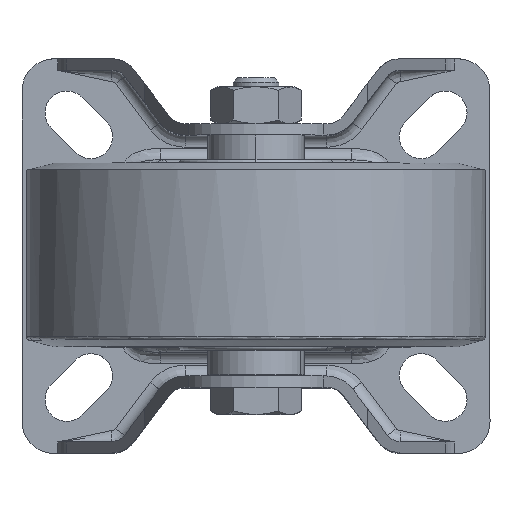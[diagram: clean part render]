
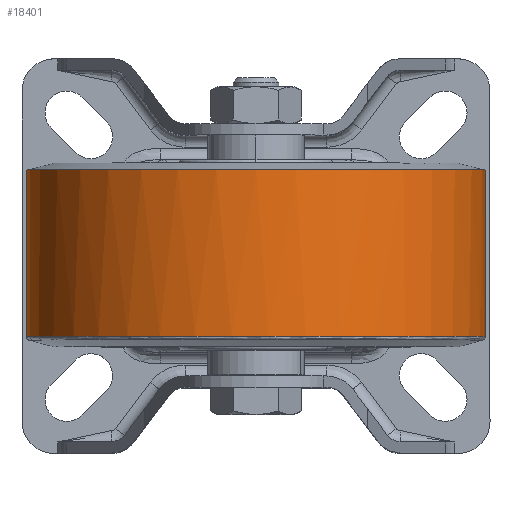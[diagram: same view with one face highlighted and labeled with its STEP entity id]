
A CAD part, top view. The second image highlights one B-rep face of the part: STEP entity #18401.
In plain terms, the highlighted cylindrical face has radius 50 mm (diameter 100 mm), a partial arc.
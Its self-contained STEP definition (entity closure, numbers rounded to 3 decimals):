
#374 = CARTESIAN_POINT ( 'NONE',  ( -116.752, 9.918, 84.156 ) ) ;
#474 = CARTESIAN_POINT ( 'NONE',  ( -60.396, 9.918, 107.499 ) ) ;
#579 = CARTESIAN_POINT ( 'NONE',  ( -23.36, 9.918, 62.371 ) ) ;
#864 = VERTEX_POINT ( 'NONE', #8011 ) ;
#1130 = CARTESIAN_POINT ( 'NONE',  ( -73.36, 9.918, 59.098 ) ) ;
#2324 = EDGE_CURVE ( 'NONE', #11503, #864, #7804, .T. ) ;
#2419 = LINE ( 'NONE', #21372, #14358 ) ;
#2521 = EDGE_LOOP ( 'NONE', ( #30400, #28968, #5416, #23840 ) ) ;
#2778 = CARTESIAN_POINT ( 'NONE',  ( -111.03, 9.918, 92.139 ) ) ;
#2880 = CARTESIAN_POINT ( 'NONE',  ( -51.203, 9.918, 104.04 ) ) ;
#4739 = CIRCLE ( 'NONE', #17455, 50. ) ;
#4938 = VERTEX_POINT ( 'NONE', #17892 ) ;
#5169 = CARTESIAN_POINT ( 'NONE',  ( -103.86, 9.918, 98.853 ) ) ;
#5264 = CARTESIAN_POINT ( 'NONE',  ( -42.861, 9.918, 98.853 ) ) ;
#5416 = ORIENTED_EDGE ( 'NONE', *, *, #22107, .T. ) ;
#6010 = CARTESIAN_POINT ( 'NONE',  ( -73.36, 46.222, 59.098 ) ) ;
#6728 = CARTESIAN_POINT ( 'NONE',  ( -123.36, 9.918, 59.098 ) ) ;
#7370 = CARTESIAN_POINT ( 'NONE',  ( -123.36, 9.918, 62.371 ) ) ;
#7580 = CARTESIAN_POINT ( 'NONE',  ( -95.518, 9.918, 104.04 ) ) ;
#7682 = CARTESIAN_POINT ( 'NONE',  ( -35.691, 9.918, 92.139 ) ) ;
#7804 = B_SPLINE_CURVE_WITH_KNOTS ( 'NONE', 3,
 ( #14562, #7370, #26505, #12277, #28902, #14663, #374, #17051, #2778, #19464, #5169, #21859, #7580, #24238, #9981, #26608, #12375, #29008, #14767, #474, #17158, #2880, #19570, #5264, #21966, #7682, #24333, #10080, #26711, #12477, #29105, #14867, #579, #17250 ),
 .UNSPECIFIED., .F., .F.,
 ( 4, 2, 2, 2, 2, 2, 2, 2, 2, 2, 2, 2, 2, 2, 2, 2, 4 ),
 ( 0., 0.063, 0.125, 0.188, 0.25, 0.313, 0.375, 0.438, 0.5, 0.563, 0.625, 0.688, 0.75, 0.813, 0.875, 0.938, 1. ),
 .UNSPECIFIED. ) ;
#8011 = CARTESIAN_POINT ( 'NONE',  ( -23.36, 9.918, 59.098 ) ) ;
#8423 = DIRECTION ( 'NONE',  ( -1., 0., 0. ) ) ;
#9010 = CYLINDRICAL_SURFACE ( 'NONE', #16625, 50. ) ;
#9981 = CARTESIAN_POINT ( 'NONE',  ( -86.325, 9.918, 107.499 ) ) ;
#10060 = CARTESIAN_POINT ( 'NONE',  ( -23.36, 9.918, 59.098 ) ) ;
#10080 = CARTESIAN_POINT ( 'NONE',  ( -29.969, 9.918, 84.156 ) ) ;
#10339 = EDGE_CURVE ( 'NONE', #864, #18481, #26274, .T. ) ;
#11503 = VERTEX_POINT ( 'NONE', #6728 ) ;
#12277 = CARTESIAN_POINT ( 'NONE',  ( -121.761, 9.918, 72.062 ) ) ;
#12375 = CARTESIAN_POINT ( 'NONE',  ( -76.633, 9.918, 109.098 ) ) ;
#12454 = DIRECTION ( 'NONE',  ( 0., 1., 0. ) ) ;
#12477 = CARTESIAN_POINT ( 'NONE',  ( -25.914, 9.918, 75.209 ) ) ;
#13124 = CARTESIAN_POINT ( 'NONE',  ( -23.36, 46.222, 59.098 ) ) ;
#14358 = VECTOR ( 'NONE', #14389, 1000. ) ;
#14389 = DIRECTION ( 'NONE',  ( 0., 1., 0. ) ) ;
#14562 = CARTESIAN_POINT ( 'NONE',  ( -123.36, 9.918, 59.098 ) ) ;
#14663 = CARTESIAN_POINT ( 'NONE',  ( -118.302, 9.918, 81.256 ) ) ;
#14767 = CARTESIAN_POINT ( 'NONE',  ( -66.815, 9.918, 108.776 ) ) ;
#14867 = CARTESIAN_POINT ( 'NONE',  ( -23.683, 9.918, 65.643 ) ) ;
#16625 = AXIS2_PLACEMENT_3D ( 'NONE', #1130, #27257, #24971 ) ;
#17051 = CARTESIAN_POINT ( 'NONE',  ( -113.116, 9.918, 89.598 ) ) ;
#17158 = CARTESIAN_POINT ( 'NONE',  ( -57.25, 9.918, 106.544 ) ) ;
#17250 = CARTESIAN_POINT ( 'NONE',  ( -23.36, 9.918, 59.098 ) ) ;
#17455 = AXIS2_PLACEMENT_3D ( 'NONE', #6010, #22692, #8423 ) ;
#17892 = CARTESIAN_POINT ( 'NONE',  ( -123.36, 46.222, 59.098 ) ) ;
#18401 = ADVANCED_FACE ( 'NONE', ( #21712 ), #9010, .T. ) ;
#18477 = VECTOR ( 'NONE', #12454, 1000. ) ;
#18481 = VERTEX_POINT ( 'NONE', #13124 ) ;
#19464 = CARTESIAN_POINT ( 'NONE',  ( -106.402, 9.918, 96.767 ) ) ;
#19570 = CARTESIAN_POINT ( 'NONE',  ( -48.303, 9.918, 102.49 ) ) ;
#21372 = CARTESIAN_POINT ( 'NONE',  ( -123.36, 9.918, 59.098 ) ) ;
#21712 = FACE_OUTER_BOUND ( 'NONE', #2521, .T. ) ;
#21859 = CARTESIAN_POINT ( 'NONE',  ( -98.418, 9.918, 102.49 ) ) ;
#21966 = CARTESIAN_POINT ( 'NONE',  ( -40.319, 9.918, 96.767 ) ) ;
#22107 = EDGE_CURVE ( 'NONE', #18481, #4938, #4739, .T. ) ;
#22692 = DIRECTION ( 'NONE',  ( 0., -1., 0. ) ) ;
#23840 = ORIENTED_EDGE ( 'NONE', *, *, #27461, .F. ) ;
#24238 = CARTESIAN_POINT ( 'NONE',  ( -89.471, 9.918, 106.544 ) ) ;
#24333 = CARTESIAN_POINT ( 'NONE',  ( -33.605, 9.918, 89.598 ) ) ;
#24971 = DIRECTION ( 'NONE',  ( -1., 0., 0. ) ) ;
#26274 = LINE ( 'NONE', #10060, #18477 ) ;
#26505 = CARTESIAN_POINT ( 'NONE',  ( -123.038, 9.918, 65.643 ) ) ;
#26608 = CARTESIAN_POINT ( 'NONE',  ( -79.905, 9.918, 108.776 ) ) ;
#26711 = CARTESIAN_POINT ( 'NONE',  ( -28.419, 9.918, 81.256 ) ) ;
#27257 = DIRECTION ( 'NONE',  ( 0., 1., 0. ) ) ;
#27461 = EDGE_CURVE ( 'NONE', #11503, #4938, #2419, .T. ) ;
#28902 = CARTESIAN_POINT ( 'NONE',  ( -120.807, 9.918, 75.209 ) ) ;
#28968 = ORIENTED_EDGE ( 'NONE', *, *, #10339, .T. ) ;
#29008 = CARTESIAN_POINT ( 'NONE',  ( -70.088, 9.918, 109.098 ) ) ;
#29105 = CARTESIAN_POINT ( 'NONE',  ( -24.96, 9.918, 72.062 ) ) ;
#30400 = ORIENTED_EDGE ( 'NONE', *, *, #2324, .T. ) ;
